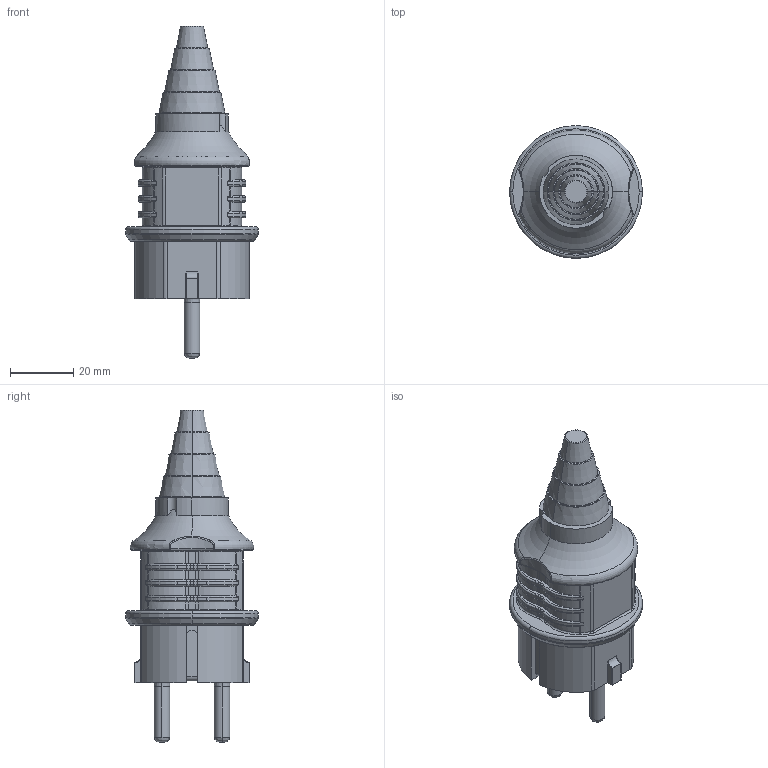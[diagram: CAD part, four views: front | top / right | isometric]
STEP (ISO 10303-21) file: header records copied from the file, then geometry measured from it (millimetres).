
FILE_DESCRIPTION (( 'STEP AP203' ), '1' );
FILE_NAME ('DIS1103100 (CP Schuko 16ﾀ 230ﾂ IP54).STEP', '2024-08-05T06:02:54', ( '' ), ( '' ), 'SwSTEP 2.0', 'SolidWorks 2022', '' );
FILE_SCHEMA (( 'CONFIG_CONTROL_DESIGN' ));
Length unit declared in the file: millimetre
Products named in the file (1): DIS1103100 (CP Schuko  16А 230В IP54)
Bounding box: 42 x 42 x 105 mm (x, y, z)
Volume: 57293.2 mm3; surface area: 11967.3 mm2
Topology: 1 solids, 5 shells, 498 faces, 1273 edges, 792 vertices
Faces by surface type: cylinder 212, torus 129, plane 113, cone 20, bspline 18, sphere 6
Entity records: 16756 total; most frequent: CARTESIAN_POINT 4489, DIRECTION 2710, ORIENTED_EDGE 2546, EDGE_CURVE 1273, AXIS2_PLACEMENT_3D 1120, VERTEX_POINT 792, CIRCLE 639, EDGE_LOOP 513
